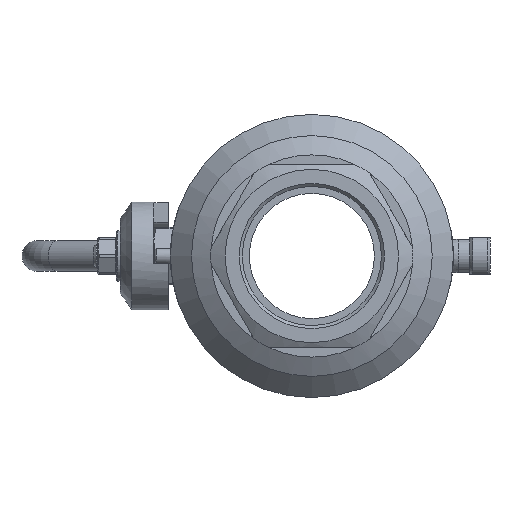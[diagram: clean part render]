
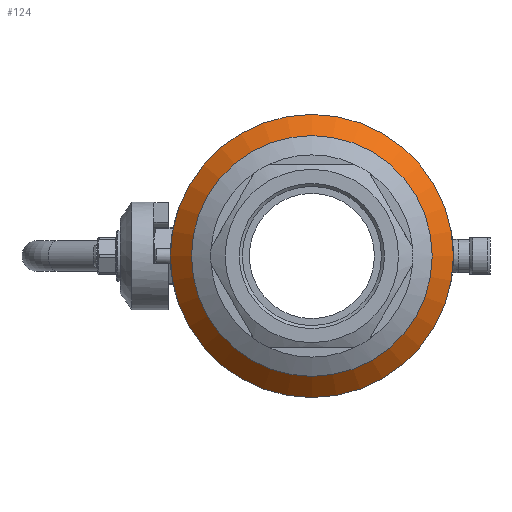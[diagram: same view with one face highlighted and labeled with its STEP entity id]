
A CAD part, left-side view. The second image highlights one B-rep face of the part: STEP entity #124.
In plain terms, the highlighted conical face has half-angle 45 degrees and reference radius 68 mm.
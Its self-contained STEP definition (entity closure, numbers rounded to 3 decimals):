
#124=ADVANCED_FACE('',(#940),#942,.T.);
#940=FACE_OUTER_BOUND('',#941,.T.);
#941=EDGE_LOOP('',(#2206,#2207,#2208,#2209,#2210));
#942=CONICAL_SURFACE('',#943,68.,0.785);
#943=AXIS2_PLACEMENT_3D('',#944,#945,#946);
#944=CARTESIAN_POINT('',(-44.5,0.,0.));
#945=DIRECTION('',(1.,0.,0.));
#946=DIRECTION('',(0.,1.,0.));
#2206=ORIENTED_EDGE('',*,*,#3461,.F.);
#2207=ORIENTED_EDGE('',*,*,#3462,.F.);
#2208=ORIENTED_EDGE('',*,*,#3421,.F.);
#2209=ORIENTED_EDGE('',*,*,#3462,.T.);
#2210=ORIENTED_EDGE('',*,*,#3463,.F.);
#3421=EDGE_CURVE('',#3826,#3826,#3828,.T.);
#3461=EDGE_CURVE('',#3889,#3890,#3891,.F.);
#3462=EDGE_CURVE('',#3826,#3889,#3892,.T.);
#3463=EDGE_CURVE('',#3890,#3889,#3893,.F.);
#3826=VERTEX_POINT('',#5080);
#3828=CIRCLE('',#5084,73.5);
#3889=VERTEX_POINT('',#5634);
#3890=VERTEX_POINT('',#5635);
#3891=CIRCLE('',#5636,62.5);
#3892=LINE('',#5640,#5641);
#3893=CIRCLE('',#5643,62.5);
#5080=CARTESIAN_POINT('',(-39.,73.5,0.));
#5084=AXIS2_PLACEMENT_3D('',#5085,#5086,#5087);
#5085=CARTESIAN_POINT('',(-39.,0.,0.));
#5086=DIRECTION('',(1.,0.,-0.));
#5087=DIRECTION('',(0.,1.,0.));
#5634=CARTESIAN_POINT('',(-50.,62.5,0.));
#5635=CARTESIAN_POINT('',(-50.,-62.5,0.));
#5636=AXIS2_PLACEMENT_3D('',#5637,#5638,#5639);
#5637=CARTESIAN_POINT('',(-50.,0.,0.));
#5638=DIRECTION('',(1.,0.,-0.));
#5639=DIRECTION('',(0.,-1.,0.));
#5640=CARTESIAN_POINT('',(-39.,73.5,0.));
#5641=VECTOR('',#5642,1.);
#5642=DIRECTION('',(-0.707,-0.707,0.));
#5643=AXIS2_PLACEMENT_3D('',#5644,#5645,#5646);
#5644=CARTESIAN_POINT('',(-50.,0.,0.));
#5645=DIRECTION('',(1.,0.,-0.));
#5646=DIRECTION('',(0.,1.,0.));
